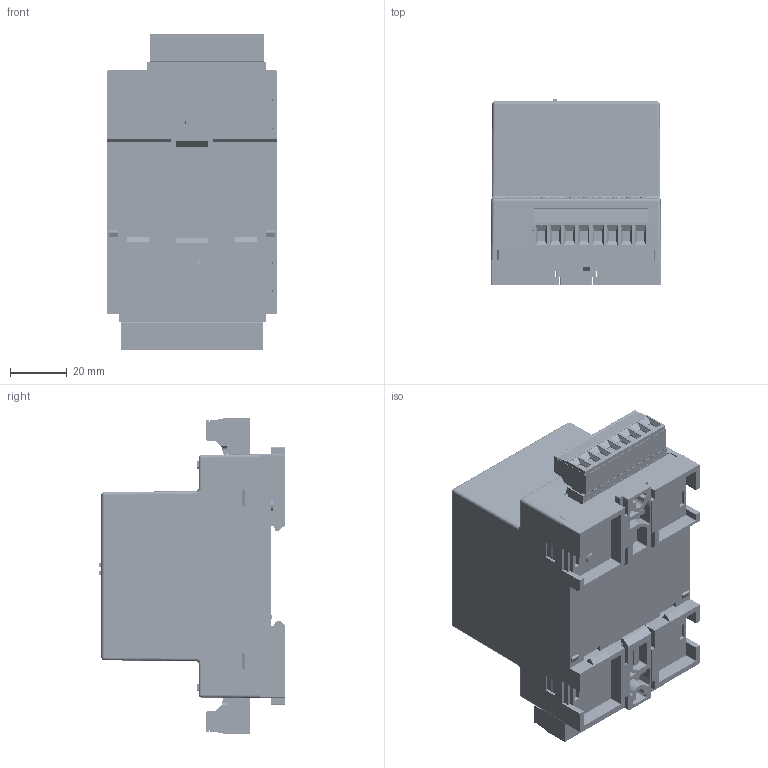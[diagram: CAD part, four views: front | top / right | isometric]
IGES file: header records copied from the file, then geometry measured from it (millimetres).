
Start section: SolidWorks IGES file using analytic representation for surfaces
Global section: file name: D:\Modeling Work\Macromatic\ISDUR4\Files\ISDUR4.IGS; native system: SolidWorks 2018; preprocessor: SolidWorks 2018; author: mdahl; date: 181204.205255; units: inch
Bounding box: 60 x 65.69 x 111.7 mm (x, y, z)
Surface area: 98179.2 mm2 (no closed solid volume)
Topology: 0 solids, 0 shells, 4164 faces, 39331 edges, 39209 vertices
Faces by surface type: bspline 3316, revolution 848
